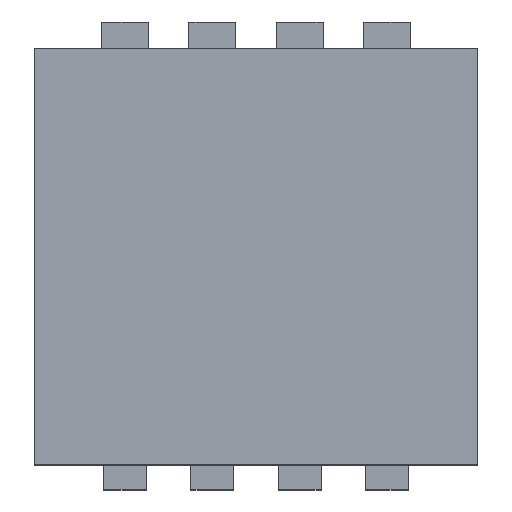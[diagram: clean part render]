
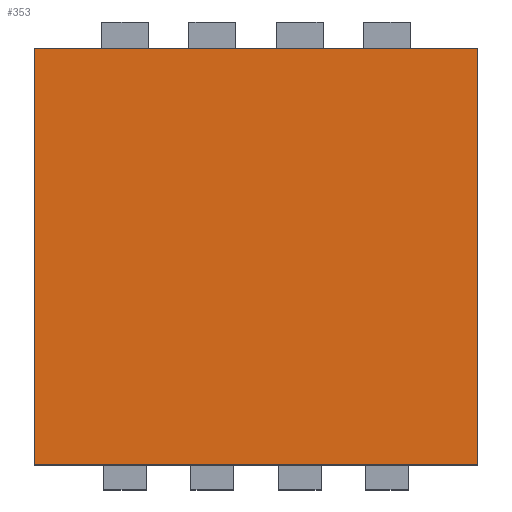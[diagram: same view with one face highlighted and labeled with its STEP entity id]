
A CAD part, top view. The second image highlights one B-rep face of the part: STEP entity #353.
In plain terms, the highlighted planar face has unit normal (0, 0, 1).
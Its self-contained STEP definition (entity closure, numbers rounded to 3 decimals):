
#39 = VERTEX_POINT('',#40);
#40 = CARTESIAN_POINT('',(-1.65,-1.6,0.8));
#47 = PLANE('',#48);
#48 = AXIS2_PLACEMENT_3D('',#49,#50,#51);
#49 = CARTESIAN_POINT('',(-1.65,-1.6,0.));
#50 = DIRECTION('',(0.,1.,0.));
#51 = DIRECTION('',(1.,0.,0.));
#59 = PLANE('',#60);
#60 = AXIS2_PLACEMENT_3D('',#61,#62,#63);
#61 = CARTESIAN_POINT('',(-1.65,1.5,0.));
#62 = DIRECTION('',(1.,0.,-0.));
#63 = DIRECTION('',(0.,-1.,0.));
#71 = EDGE_CURVE('',#39,#72,#74,.T.);
#72 = VERTEX_POINT('',#73);
#73 = CARTESIAN_POINT('',(1.65,-1.6,0.8));
#74 = SURFACE_CURVE('',#75,(#79,#86),.PCURVE_S1.);
#75 = LINE('',#76,#77);
#76 = CARTESIAN_POINT('',(-1.65,-1.6,0.8));
#77 = VECTOR('',#78,1.);
#78 = DIRECTION('',(1.,0.,0.));
#79 = PCURVE('',#47,#80);
#80 = DEFINITIONAL_REPRESENTATION('',(#81),#85);
#81 = LINE('',#82,#83);
#82 = CARTESIAN_POINT('',(0.,-0.8));
#83 = VECTOR('',#84,1.);
#84 = DIRECTION('',(1.,0.));
#85 = ( GEOMETRIC_REPRESENTATION_CONTEXT(2) 
PARAMETRIC_REPRESENTATION_CONTEXT() REPRESENTATION_CONTEXT('2D SPACE',''
  ) );
#86 = PCURVE('',#87,#92);
#87 = PLANE('',#88);
#88 = AXIS2_PLACEMENT_3D('',#89,#90,#91);
#89 = CARTESIAN_POINT('',(0.,-0.05,0.8));
#90 = DIRECTION('',(0.,0.,1.));
#91 = DIRECTION('',(0.,1.,0.));
#92 = DEFINITIONAL_REPRESENTATION('',(#93),#97);
#93 = LINE('',#94,#95);
#94 = CARTESIAN_POINT('',(-1.55,1.65));
#95 = VECTOR('',#96,1.);
#96 = DIRECTION('',(0.,-1.));
#97 = ( GEOMETRIC_REPRESENTATION_CONTEXT(2) 
PARAMETRIC_REPRESENTATION_CONTEXT() REPRESENTATION_CONTEXT('2D SPACE',''
  ) );
#115 = PLANE('',#116);
#116 = AXIS2_PLACEMENT_3D('',#117,#118,#119);
#117 = CARTESIAN_POINT('',(1.65,-1.6,0.));
#118 = DIRECTION('',(-1.,0.,0.));
#119 = DIRECTION('',(0.,1.,0.));
#157 = EDGE_CURVE('',#72,#158,#160,.T.);
#158 = VERTEX_POINT('',#159);
#159 = CARTESIAN_POINT('',(1.65,1.5,0.8));
#160 = SURFACE_CURVE('',#161,(#165,#172),.PCURVE_S1.);
#161 = LINE('',#162,#163);
#162 = CARTESIAN_POINT('',(1.65,-1.6,0.8));
#163 = VECTOR('',#164,1.);
#164 = DIRECTION('',(0.,1.,0.));
#165 = PCURVE('',#115,#166);
#166 = DEFINITIONAL_REPRESENTATION('',(#167),#171);
#167 = LINE('',#168,#169);
#168 = CARTESIAN_POINT('',(0.,-0.8));
#169 = VECTOR('',#170,1.);
#170 = DIRECTION('',(1.,0.));
#171 = ( GEOMETRIC_REPRESENTATION_CONTEXT(2) 
PARAMETRIC_REPRESENTATION_CONTEXT() REPRESENTATION_CONTEXT('2D SPACE',''
  ) );
#172 = PCURVE('',#87,#173);
#173 = DEFINITIONAL_REPRESENTATION('',(#174),#178);
#174 = LINE('',#175,#176);
#175 = CARTESIAN_POINT('',(-1.55,-1.65));
#176 = VECTOR('',#177,1.);
#177 = DIRECTION('',(1.,0.));
#178 = ( GEOMETRIC_REPRESENTATION_CONTEXT(2) 
PARAMETRIC_REPRESENTATION_CONTEXT() REPRESENTATION_CONTEXT('2D SPACE',''
  ) );
#196 = PLANE('',#197);
#197 = AXIS2_PLACEMENT_3D('',#198,#199,#200);
#198 = CARTESIAN_POINT('',(1.65,1.5,0.));
#199 = DIRECTION('',(0.,-1.,0.));
#200 = DIRECTION('',(-1.,0.,0.));
#233 = EDGE_CURVE('',#158,#234,#236,.T.);
#234 = VERTEX_POINT('',#235);
#235 = CARTESIAN_POINT('',(-1.65,1.5,0.8));
#236 = SURFACE_CURVE('',#237,(#241,#248),.PCURVE_S1.);
#237 = LINE('',#238,#239);
#238 = CARTESIAN_POINT('',(1.65,1.5,0.8));
#239 = VECTOR('',#240,1.);
#240 = DIRECTION('',(-1.,0.,0.));
#241 = PCURVE('',#196,#242);
#242 = DEFINITIONAL_REPRESENTATION('',(#243),#247);
#243 = LINE('',#244,#245);
#244 = CARTESIAN_POINT('',(0.,-0.8));
#245 = VECTOR('',#246,1.);
#246 = DIRECTION('',(1.,0.));
#247 = ( GEOMETRIC_REPRESENTATION_CONTEXT(2) 
PARAMETRIC_REPRESENTATION_CONTEXT() REPRESENTATION_CONTEXT('2D SPACE',''
  ) );
#248 = PCURVE('',#87,#249);
#249 = DEFINITIONAL_REPRESENTATION('',(#250),#254);
#250 = LINE('',#251,#252);
#251 = CARTESIAN_POINT('',(1.55,-1.65));
#252 = VECTOR('',#253,1.);
#253 = DIRECTION('',(0.,1.));
#254 = ( GEOMETRIC_REPRESENTATION_CONTEXT(2) 
PARAMETRIC_REPRESENTATION_CONTEXT() REPRESENTATION_CONTEXT('2D SPACE',''
  ) );
#304 = EDGE_CURVE('',#234,#39,#305,.T.);
#305 = SURFACE_CURVE('',#306,(#310,#317),.PCURVE_S1.);
#306 = LINE('',#307,#308);
#307 = CARTESIAN_POINT('',(-1.65,1.5,0.8));
#308 = VECTOR('',#309,1.);
#309 = DIRECTION('',(0.,-1.,0.));
#310 = PCURVE('',#59,#311);
#311 = DEFINITIONAL_REPRESENTATION('',(#312),#316);
#312 = LINE('',#313,#314);
#313 = CARTESIAN_POINT('',(0.,-0.8));
#314 = VECTOR('',#315,1.);
#315 = DIRECTION('',(1.,0.));
#316 = ( GEOMETRIC_REPRESENTATION_CONTEXT(2) 
PARAMETRIC_REPRESENTATION_CONTEXT() REPRESENTATION_CONTEXT('2D SPACE',''
  ) );
#317 = PCURVE('',#87,#318);
#318 = DEFINITIONAL_REPRESENTATION('',(#319),#323);
#319 = LINE('',#320,#321);
#320 = CARTESIAN_POINT('',(1.55,1.65));
#321 = VECTOR('',#322,1.);
#322 = DIRECTION('',(-1.,-0.));
#323 = ( GEOMETRIC_REPRESENTATION_CONTEXT(2) 
PARAMETRIC_REPRESENTATION_CONTEXT() REPRESENTATION_CONTEXT('2D SPACE',''
  ) );
#353 = ADVANCED_FACE('',(#354),#87,.T.);
#354 = FACE_BOUND('',#355,.T.);
#355 = EDGE_LOOP('',(#356,#357,#358,#359));
#356 = ORIENTED_EDGE('',*,*,#71,.T.);
#357 = ORIENTED_EDGE('',*,*,#157,.T.);
#358 = ORIENTED_EDGE('',*,*,#233,.T.);
#359 = ORIENTED_EDGE('',*,*,#304,.T.);
